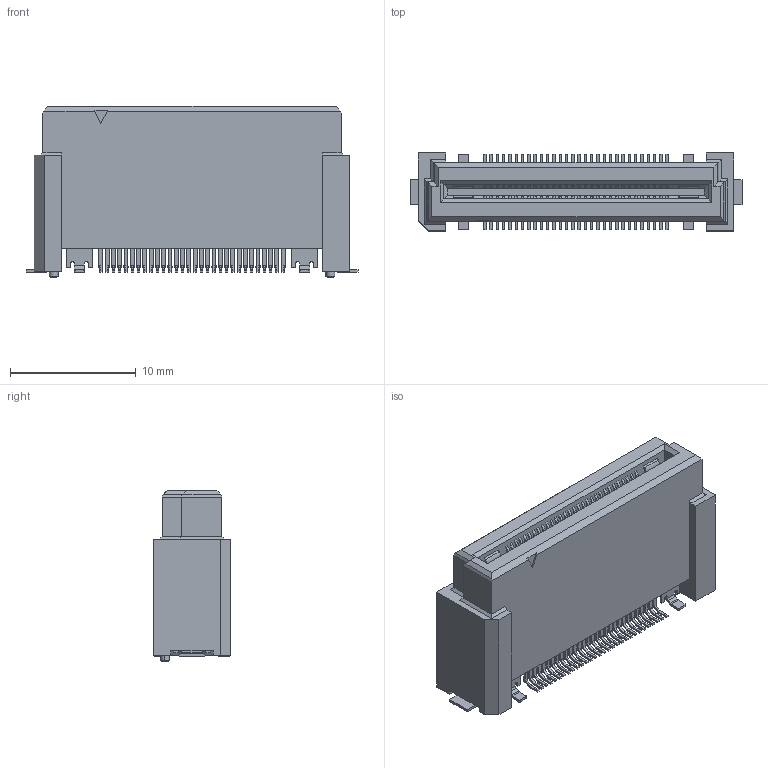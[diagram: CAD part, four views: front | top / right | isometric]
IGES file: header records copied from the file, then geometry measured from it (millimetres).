
Start section: Elysium IGES Interface
Global section: file name: 124HG:\その他\DT関連\DT_CADﾃﾞｰﾀ\DT_3DCAD(客先提出用)\プラグ\DT1XE(電源pin)\-15\DT11E-XXXS-15-T(WEB用)\P3E816_DT11E-060S-15-T.igs; native system: Creo Elements/Direct Modeling 20.6  25-Mar-2023; preprocessor: Creo Element/Direct IGES_3D V2.2; author: Unknown; organization: Unknown; date: 20240313.111039; units: millimetre
Bounding box: 26.4 x 6.2 x 13.63 mm (x, y, z)
Volume: 1312.9 mm3; surface area: 1411 mm2
Topology: 1 solids, 1 shells, 2045 faces, 5762 edges, 3788 vertices
Faces by surface type: bspline 2045
